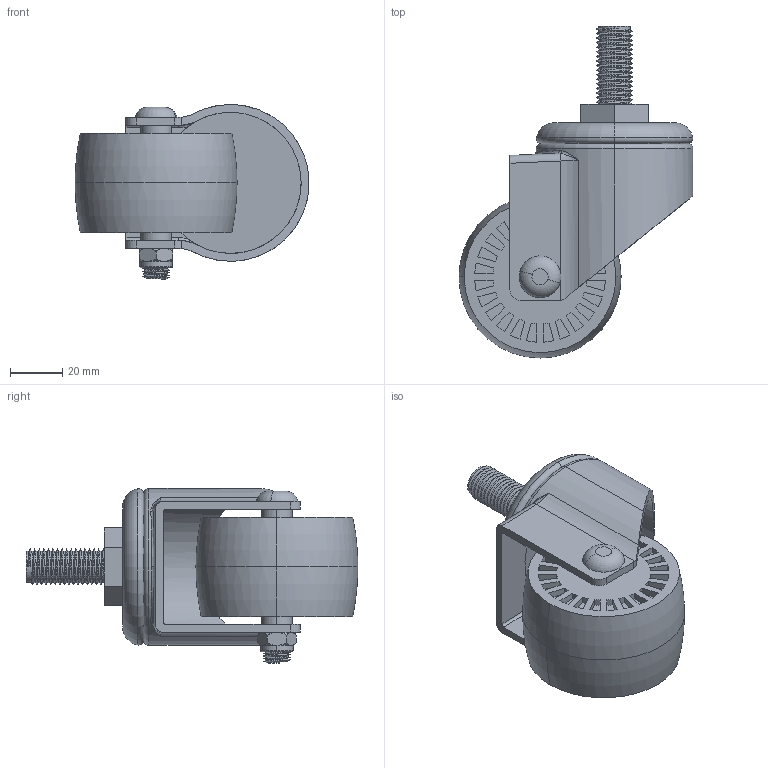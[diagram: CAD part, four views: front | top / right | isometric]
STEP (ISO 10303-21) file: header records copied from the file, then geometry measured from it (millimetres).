
FILE_DESCRIPTION (( 'STEP AP203' ), '1' );
FILE_NAME ('25JP16AT.STEP', '2018-01-26T06:05:22', ( '' ), ( '' ), 'SwSTEP 2.0', 'SolidWorks 2014', '' );
FILE_SCHEMA (( 'CONFIG_CONTROL_DESIGN' ));
Length unit declared in the file: millimetre
Products named in the file (7): 25JP16AT; 螺絲M8X65; 套管; 活動架美國-25; 輪-美國25; 螺帽M8; 牙式底盤美國40
Assembly tree (6 placements, depth 2):
  25JP16AT
    活動架美國-25
    套管
    輪-美國25
    螺帽M8
    螺絲M8X65
    牙式底盤美國40
Bounding box: 89.5 x 127 x 67 mm (x, y, z)
Volume: 166345.6 mm3; surface area: 53411 mm2
Topology: 6 solids, 6 shells, 403 faces, 999 edges, 660 vertices
Faces by surface type: plane 188, cylinder 180, torus 20, bspline 15
Full cylindrical faces by diameter (mm): 8 x10
Entity records: 17417 total; most frequent: CARTESIAN_POINT 7211, ORIENTED_EDGE 2032, DIRECTION 1926, EDGE_CURVE 1016, AXIS2_PLACEMENT_3D 698, VERTEX_POINT 680, LINE 530, VECTOR 530
